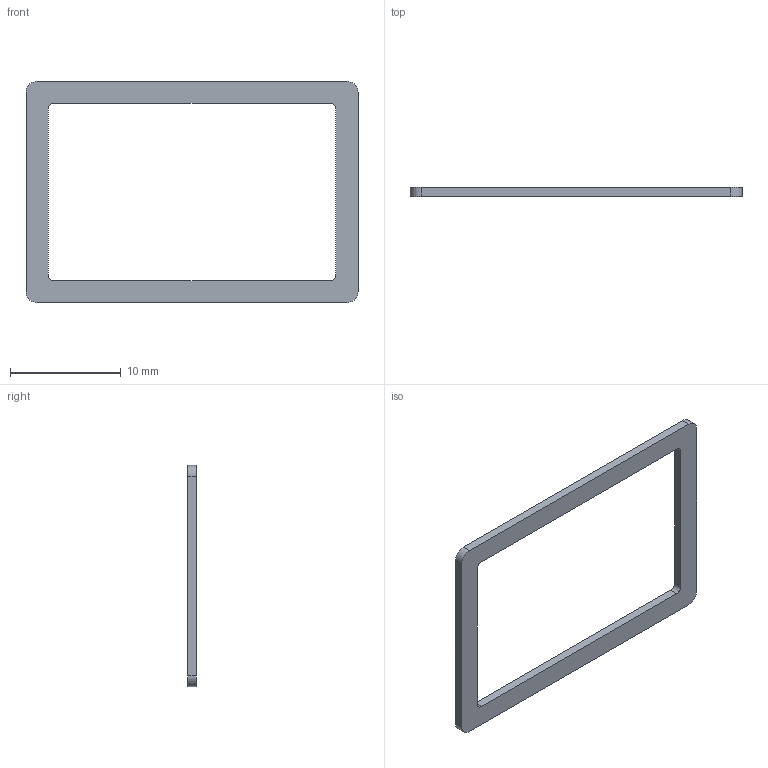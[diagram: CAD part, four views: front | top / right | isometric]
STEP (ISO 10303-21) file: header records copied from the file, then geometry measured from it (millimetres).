
FILE_DESCRIPTION(('Open CASCADE Model'),'2;1');
FILE_NAME('Open CASCADE Shape Model','2026-10-01T12:35:22',('Author'),( 'Open CASCADE'),'Open CASCADE STEP processor 7.8','Open CASCADE 7.8' ,'Unknown');
FILE_SCHEMA(('AUTOMOTIVE_DESIGN { 1 0 10303 214 1 1 1 1 }'));
Length unit declared in the file: millimetre
Products named in the file (2): H02_Speaker_gasket; H02_Speaker_gasket_solid
Assembly tree (1 placements, depth 2):
  H02_Speaker_gasket
    H02_Speaker_gasket_solid
Bounding box: 30 x 0.8 x 20 mm (x, y, z)
Volume: 146.7 mm3; surface area: 511.9 mm2
Topology: 1 solids, 1 shells, 18 faces, 48 edges, 32 vertices
Faces by surface type: plane 10, cylinder 8
Entity records: 1229 total; most frequent: CARTESIAN_POINT 236, DIRECTION 180, ORIENTED_EDGE 96, LINE 96, VECTOR 96, PCURVE 96, DEFINITIONAL_REPRESENTATION 96, EDGE_CURVE 48
